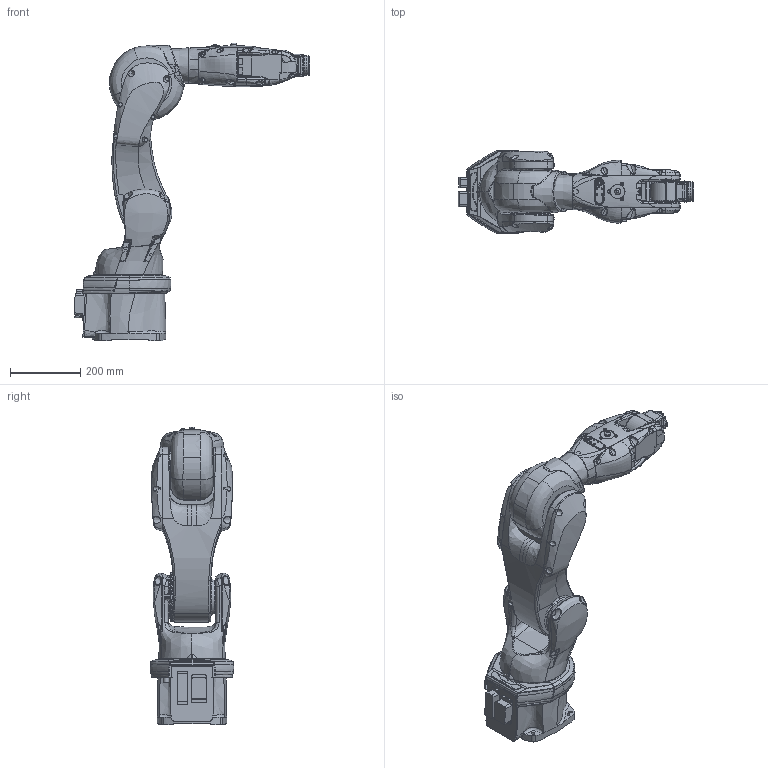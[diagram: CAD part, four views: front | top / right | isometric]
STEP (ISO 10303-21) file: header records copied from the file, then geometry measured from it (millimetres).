
FILE_DESCRIPTION (( 'STEP AP214' ), '1' );
FILE_NAME ('Racer5Cobot.STEP', '2021-04-09T12:15:33', ( '' ), ( '' ), 'SwSTEP 2.0', 'SolidWorks 2017', '' );
FILE_SCHEMA (( 'AUTOMOTIVE_DESIGN' ));
Length unit declared in the file: millimetre
Products named in the file (1): Racer5Cobot
Bounding box: 672.75 x 238.65 x 849 mm (x, y, z)
Surface area: 1535364.1 mm2 (no closed solid volume)
Topology: 0 solids, 34 shells, 2478 faces, 6561 edges, 4195 vertices
Faces by surface type: bspline 1156, plane 650, cylinder 497, cone 88, torus 73, sphere 14
Full cylindrical faces by diameter (mm): 2.5 x22, 2.55 x4, 2.8 x4, 3.3 x8, 4 x6, 4.4 x2, 4.5 x8, 5 x4, 5.68 x12, 6 x5, 6.3 x1, 6.5 x1, 7 x5, 7.2 x2, 7.9 x2, 8 x3, 9 x4, 9.9 x1, 10 x1, 11 x1, 12 x1, 16 x2, 17.1 x1, 17.5 x1, 18.5 x1, 22.1 x1, 31 x1, 31.896 x1, 42.5 x1, 43.3 x1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
Entity records: 291513 total; most frequent: CARTESIAN_POINT 215562, ORIENTED_EDGE 12110, DIRECTION 6339, EDGE_CURVE 6224, VERTEX_POINT 4096, B_SPLINE_CURVE_WITH_KNOTS 3266, EDGE_LOOP 2842, FACE_OUTER_BOUND 2651
